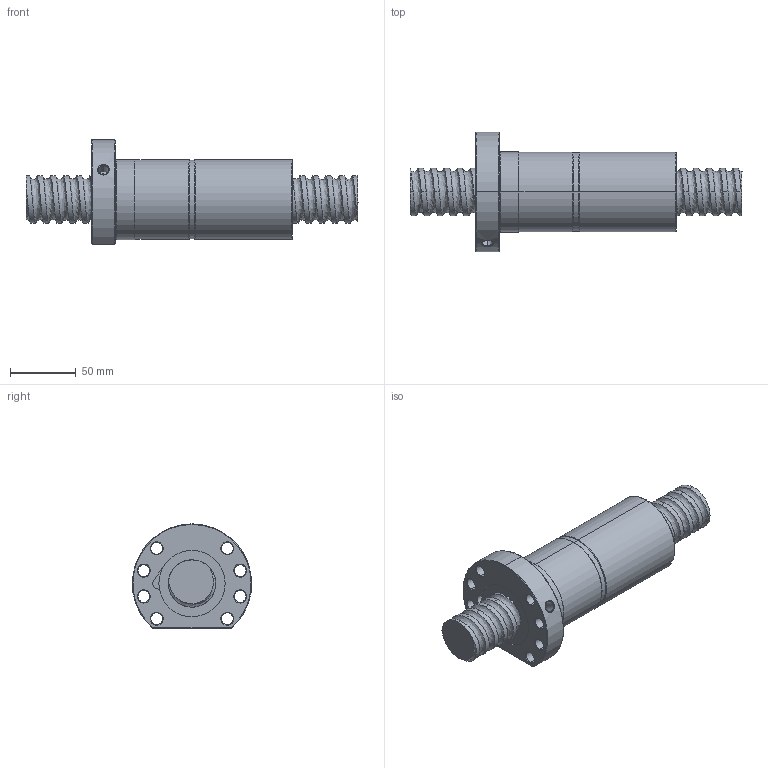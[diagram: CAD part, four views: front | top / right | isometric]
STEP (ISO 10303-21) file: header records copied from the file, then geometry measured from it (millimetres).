
FILE_DESCRIPTION (( 'STEP AP214' ), '1' );
FILE_NAME ('FDDC03610T5-F-B.STEP', '2010-07-06T05:15:26', ( 'XPAUTO' ), ( 'XPAUTO' ), 'SwSTEP 2.0', 'SolidWorks 2007', '' );
FILE_SCHEMA (( 'AUTOMOTIVE_DESIGN' ));
Length unit declared in the file: millimetre
Products named in the file (3): FDDC03610T5-F-B; FDDC03610T5-F-B.sldasm-Part-2_預設; FDDC03610T5-F-B.sldasm-Part-1_預設
Assembly tree (2 placements, depth 2):
  FDDC03610T5-F-B
    FDDC03610T5-F-B.sldasm-Part-2_預設
    FDDC03610T5-F-B.sldasm-Part-1_預設
Bounding box: 253 x 90.98 x 79.5 mm (x, y, z)
Volume: 559343.2 mm3; surface area: 97684.1 mm2
Topology: 2 solids, 2 shells, 162 faces, 407 edges, 254 vertices
Faces by surface type: cylinder 97, cone 32, plane 19, torus 9, bspline 5
Entity records: 46466 total; most frequent: CARTESIAN_POINT 42630, ORIENTED_EDGE 814, DIRECTION 739, EDGE_CURVE 407, AXIS2_PLACEMENT_3D 299, VERTEX_POINT 254, EDGE_LOOP 187, FACE_OUTER_BOUND 162
